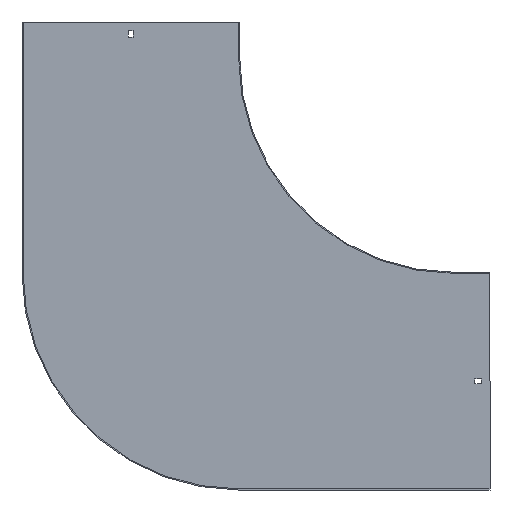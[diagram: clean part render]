
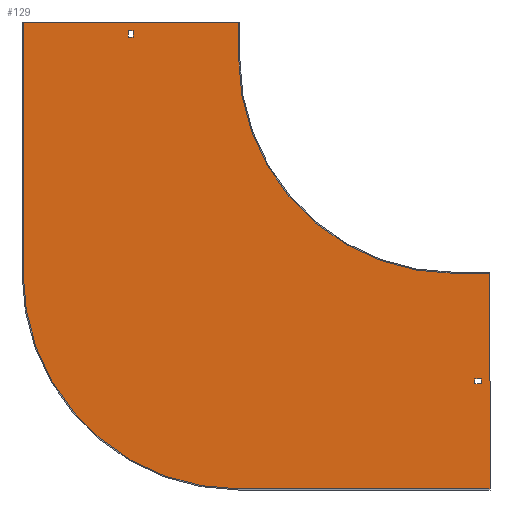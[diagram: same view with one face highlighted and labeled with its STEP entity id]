
A CAD part, front view. The second image highlights one B-rep face of the part: STEP entity #129.
In plain terms, the highlighted planar face has unit normal (0, -1, 0).
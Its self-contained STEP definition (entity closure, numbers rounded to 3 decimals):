
#4 = LINE ( 'NONE', #525, #679 ) ;
#10 = CARTESIAN_POINT ( 'NONE',  ( 0., -1.5, 29. ) ) ;
#27 = VECTOR ( 'NONE', #309, 1000. ) ;
#44 = VERTEX_POINT ( 'NONE', #574 ) ;
#47 = CARTESIAN_POINT ( 'NONE',  ( -446.75, -1.5, 38. ) ) ;
#49 = ORIENTED_EDGE ( 'NONE', *, *, #692, .F. ) ;
#51 = EDGE_CURVE ( 'NONE', #776, #424, #127, .T. ) ;
#69 = DIRECTION ( 'NONE',  ( -1., 0., 0. ) ) ;
#73 = DIRECTION ( 'NONE',  ( 0., 0., 1. ) ) ;
#76 = CARTESIAN_POINT ( 'NONE',  ( -600., -1.5, -300. ) ) ;
#79 = ORIENTED_EDGE ( 'NONE', *, *, #499, .F. ) ;
#80 = EDGE_LOOP ( 'NONE', ( #364, #819, #236, #743 ) ) ;
#84 = DIRECTION ( 'NONE',  ( 0., -1., 0. ) ) ;
#88 = ORIENTED_EDGE ( 'NONE', *, *, #644, .F. ) ;
#105 = CARTESIAN_POINT ( 'NONE',  ( 0., -1.5, -453.25 ) ) ;
#113 = VERTEX_POINT ( 'NONE', #323 ) ;
#114 = CARTESIAN_POINT ( 'NONE',  ( -446.75, -1.5, 29. ) ) ;
#127 = LINE ( 'NONE', #487, #319 ) ;
#129 = ADVANCED_FACE ( 'NONE', ( #751, #154, #389 ), #544, .T. ) ;
#141 = DIRECTION ( 'NONE',  ( -1., 0., 0. ) ) ;
#147 = DIRECTION ( 'NONE',  ( 0., 0., -1. ) ) ;
#151 = ORIENTED_EDGE ( 'NONE', *, *, #846, .F. ) ;
#154 = FACE_OUTER_BOUND ( 'NONE', #651, .T. ) ;
#162 = DIRECTION ( 'NONE',  ( 0., 0., 1. ) ) ;
#166 = EDGE_CURVE ( 'NONE', #424, #255, #340, .T. ) ;
#168 = DIRECTION ( 'NONE',  ( -1., 0., 0. ) ) ;
#197 = LINE ( 'NONE', #518, #27 ) ;
#204 = VECTOR ( 'NONE', #753, 1000. ) ;
#206 = DIRECTION ( 'NONE',  ( 0., 0., -1. ) ) ;
#216 = AXIS2_PLACEMENT_3D ( 'NONE', #657, #725, #647 ) ;
#220 = CARTESIAN_POINT ( 'NONE',  ( -300., -1.5, 50. ) ) ;
#223 = LINE ( 'NONE', #10, #233 ) ;
#227 = ORIENTED_EDGE ( 'NONE', *, *, #527, .F. ) ;
#233 = VECTOR ( 'NONE', #141, 1000. ) ;
#236 = ORIENTED_EDGE ( 'NONE', *, *, #736, .T. ) ;
#245 = ORIENTED_EDGE ( 'NONE', *, *, #433, .F. ) ;
#253 = VECTOR ( 'NONE', #267, 1000. ) ;
#255 = VERTEX_POINT ( 'NONE', #294 ) ;
#264 = CARTESIAN_POINT ( 'NONE',  ( 50., -1.5, -298.5 ) ) ;
#267 = DIRECTION ( 'NONE',  ( 1., 0., 0. ) ) ;
#275 = LINE ( 'NONE', #814, #557 ) ;
#277 = DIRECTION ( 'NONE',  ( 0., 0., -1. ) ) ;
#289 = LINE ( 'NONE', #734, #204 ) ;
#294 = CARTESIAN_POINT ( 'NONE',  ( 0., -1.5, -300. ) ) ;
#305 = LINE ( 'NONE', #264, #649 ) ;
#308 = ORIENTED_EDGE ( 'NONE', *, *, #726, .F. ) ;
#309 = DIRECTION ( 'NONE',  ( 1., 0., 0. ) ) ;
#312 = DIRECTION ( 'NONE',  ( 0., 0., -1. ) ) ;
#319 = VECTOR ( 'NONE', #606, 1000. ) ;
#323 = CARTESIAN_POINT ( 'NONE',  ( 38., -1.5, -446.75 ) ) ;
#338 = CARTESIAN_POINT ( 'NONE',  ( -300., -1.5, 0. ) ) ;
#340 = CIRCLE ( 'NONE', #372, 300. ) ;
#350 = VERTEX_POINT ( 'NONE', #705 ) ;
#351 = EDGE_LOOP ( 'NONE', ( #691, #656, #88, #151 ) ) ;
#355 = DIRECTION ( 'NONE',  ( 1., 0., 0. ) ) ;
#356 = ORIENTED_EDGE ( 'NONE', *, *, #166, .F. ) ;
#357 = ORIENTED_EDGE ( 'NONE', *, *, #480, .F. ) ;
#359 = VERTEX_POINT ( 'NONE', #114 ) ;
#361 = VERTEX_POINT ( 'NONE', #47 ) ;
#364 = ORIENTED_EDGE ( 'NONE', *, *, #467, .T. ) ;
#372 = AXIS2_PLACEMENT_3D ( 'NONE', #729, #84, #277 ) ;
#373 = VECTOR ( 'NONE', #168, 1000. ) ;
#379 = LINE ( 'NONE', #385, #253 ) ;
#385 = CARTESIAN_POINT ( 'NONE',  ( -601.5, -1.5, 50. ) ) ;
#389 = FACE_BOUND ( 'NONE', #80, .T. ) ;
#401 = DIRECTION ( 'NONE',  ( 0., -1., 0. ) ) ;
#405 = EDGE_CURVE ( 'NONE', #747, #113, #532, .T. ) ;
#412 = VECTOR ( 'NONE', #355, 1000. ) ;
#424 = VERTEX_POINT ( 'NONE', #338 ) ;
#433 = EDGE_CURVE ( 'NONE', #458, #44, #616, .T. ) ;
#458 = VERTEX_POINT ( 'NONE', #715 ) ;
#467 = EDGE_CURVE ( 'NONE', #551, #361, #197, .T. ) ;
#469 = VERTEX_POINT ( 'NONE', #591 ) ;
#476 = VECTOR ( 'NONE', #147, 1000. ) ;
#480 = EDGE_CURVE ( 'NONE', #546, #776, #379, .T. ) ;
#482 = EDGE_CURVE ( 'NONE', #361, #359, #4, .T. ) ;
#487 = CARTESIAN_POINT ( 'NONE',  ( -300., -1.5, 50. ) ) ;
#490 = VECTOR ( 'NONE', #802, 1000. ) ;
#491 = VERTEX_POINT ( 'NONE', #652 ) ;
#499 = EDGE_CURVE ( 'NONE', #44, #469, #580, .T. ) ;
#518 = CARTESIAN_POINT ( 'NONE',  ( 0., -1.5, 38. ) ) ;
#525 = CARTESIAN_POINT ( 'NONE',  ( -446.75, -1.5, 0. ) ) ;
#527 = EDGE_CURVE ( 'NONE', #255, #491, #289, .T. ) ;
#529 = CARTESIAN_POINT ( 'NONE',  ( 0., -1.5, 0. ) ) ;
#531 = LINE ( 'NONE', #599, #490 ) ;
#532 = LINE ( 'NONE', #537, #822 ) ;
#537 = CARTESIAN_POINT ( 'NONE',  ( 38., -1.5, 0. ) ) ;
#544 = PLANE ( 'NONE',  #620 ) ;
#546 = VERTEX_POINT ( 'NONE', #549 ) ;
#549 = CARTESIAN_POINT ( 'NONE',  ( -600., -1.5, 50. ) ) ;
#551 = VERTEX_POINT ( 'NONE', #809 ) ;
#554 = CARTESIAN_POINT ( 'NONE',  ( 50., -1.5, -600. ) ) ;
#557 = VECTOR ( 'NONE', #69, 1000. ) ;
#574 = CARTESIAN_POINT ( 'NONE',  ( -300., -1.5, -600. ) ) ;
#580 = CIRCLE ( 'NONE', #216, 300. ) ;
#591 = CARTESIAN_POINT ( 'NONE',  ( -600., -1.5, -300. ) ) ;
#599 = CARTESIAN_POINT ( 'NONE',  ( -453.25, -1.5, 0. ) ) ;
#606 = DIRECTION ( 'NONE',  ( 0., 0., -1. ) ) ;
#616 = LINE ( 'NONE', #554, #373 ) ;
#620 = AXIS2_PLACEMENT_3D ( 'NONE', #529, #401, #741 ) ;
#644 = EDGE_CURVE ( 'NONE', #707, #747, #695, .T. ) ;
#647 = DIRECTION ( 'NONE',  ( 0., 0., -1. ) ) ;
#649 = VECTOR ( 'NONE', #312, 1000. ) ;
#651 = EDGE_LOOP ( 'NONE', ( #357, #308, #79, #245, #49, #227, #356, #839 ) ) ;
#652 = CARTESIAN_POINT ( 'NONE',  ( 50., -1.5, -300. ) ) ;
#656 = ORIENTED_EDGE ( 'NONE', *, *, #405, .F. ) ;
#657 = CARTESIAN_POINT ( 'NONE',  ( -300., -1.5, -300. ) ) ;
#667 = CARTESIAN_POINT ( 'NONE',  ( 38., -1.5, -453.25 ) ) ;
#675 = LINE ( 'NONE', #744, #476 ) ;
#679 = VECTOR ( 'NONE', #206, 1000. ) ;
#681 = VECTOR ( 'NONE', #73, 1000. ) ;
#691 = ORIENTED_EDGE ( 'NONE', *, *, #841, .F. ) ;
#692 = EDGE_CURVE ( 'NONE', #491, #458, #305, .T. ) ;
#695 = LINE ( 'NONE', #105, #412 ) ;
#705 = CARTESIAN_POINT ( 'NONE',  ( 29., -1.5, -446.75 ) ) ;
#707 = VERTEX_POINT ( 'NONE', #774 ) ;
#715 = CARTESIAN_POINT ( 'NONE',  ( 50., -1.5, -600. ) ) ;
#725 = DIRECTION ( 'NONE',  ( 0., 1., 0. ) ) ;
#726 = EDGE_CURVE ( 'NONE', #469, #546, #807, .T. ) ;
#728 = CARTESIAN_POINT ( 'NONE',  ( -453.25, -1.5, 29. ) ) ;
#729 = CARTESIAN_POINT ( 'NONE',  ( 0., -1.5, 0. ) ) ;
#734 = CARTESIAN_POINT ( 'NONE',  ( 0., -1.5, -300. ) ) ;
#735 = VERTEX_POINT ( 'NONE', #728 ) ;
#736 = EDGE_CURVE ( 'NONE', #359, #735, #223, .T. ) ;
#741 = DIRECTION ( 'NONE',  ( 0., 0., -1. ) ) ;
#743 = ORIENTED_EDGE ( 'NONE', *, *, #827, .T. ) ;
#744 = CARTESIAN_POINT ( 'NONE',  ( 29., -1.5, 0. ) ) ;
#747 = VERTEX_POINT ( 'NONE', #667 ) ;
#751 = FACE_BOUND ( 'NONE', #351, .T. ) ;
#753 = DIRECTION ( 'NONE',  ( 1., 0., 0. ) ) ;
#774 = CARTESIAN_POINT ( 'NONE',  ( 29., -1.5, -453.25 ) ) ;
#776 = VERTEX_POINT ( 'NONE', #220 ) ;
#802 = DIRECTION ( 'NONE',  ( 0., 0., 1. ) ) ;
#807 = LINE ( 'NONE', #76, #681 ) ;
#809 = CARTESIAN_POINT ( 'NONE',  ( -453.25, -1.5, 38. ) ) ;
#814 = CARTESIAN_POINT ( 'NONE',  ( 0., -1.5, -446.75 ) ) ;
#819 = ORIENTED_EDGE ( 'NONE', *, *, #482, .T. ) ;
#822 = VECTOR ( 'NONE', #162, 1000. ) ;
#827 = EDGE_CURVE ( 'NONE', #735, #551, #531, .T. ) ;
#839 = ORIENTED_EDGE ( 'NONE', *, *, #51, .F. ) ;
#841 = EDGE_CURVE ( 'NONE', #113, #350, #275, .T. ) ;
#846 = EDGE_CURVE ( 'NONE', #350, #707, #675, .T. ) ;
